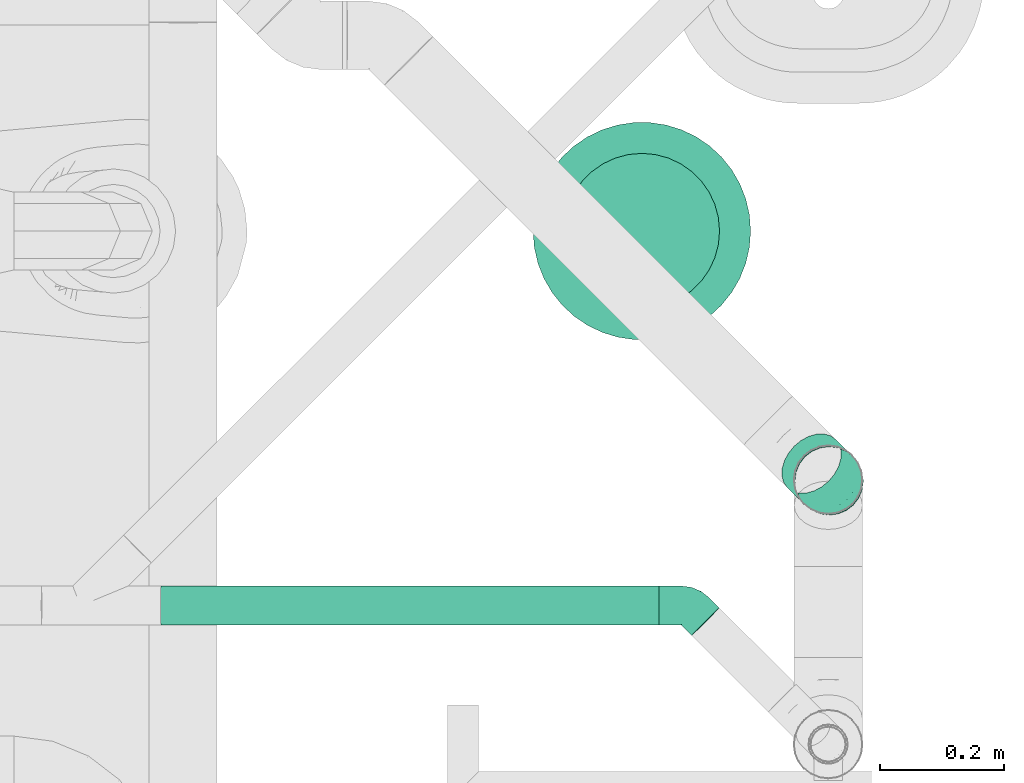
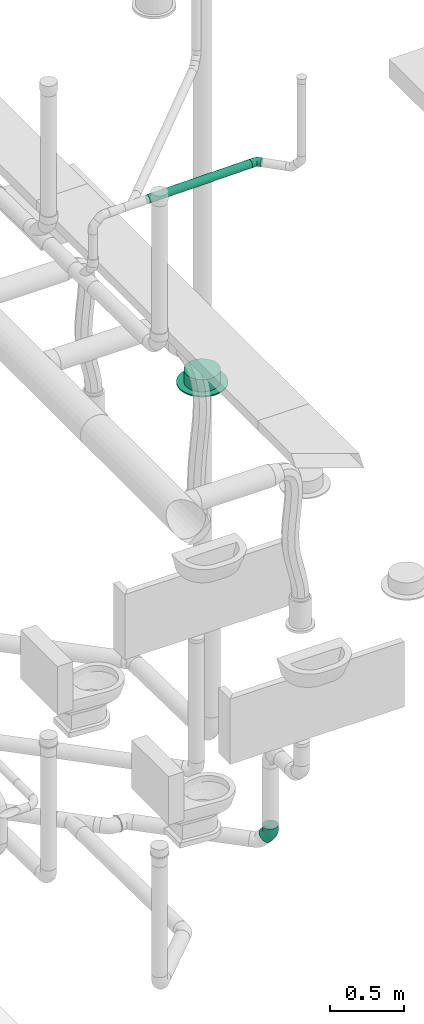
# One storey, part 133 of 374: 2 flow fittings, 1 distribution element, 1 flow segment.
"""IFC2X3 building model written with IfcOpenShell, lengths in metres."""

from ifc_helpers import new_model, si_unit, direction, frame, frame_2d, origin, place, context, subcontext, project, spatial, circle, extrude, open_shell, surface_model, source, transform, mapped, element, save


model = new_model("IFC2X3")

# Units and contexts
model_context = context("Model", 3, precision=1e-05, world=origin(), true_north=direction((-0.4480736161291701, 0.8939966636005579)))
body_context = subcontext(model_context, "Body", "Model", "MODEL_VIEW")
ifc_project = project(units=[si_unit("LENGTHUNIT", "METRE"), si_unit("AREAUNIT", "SQUARE_METRE"), si_unit("VOLUMEUNIT", "CUBIC_METRE"), si_unit("PLANEANGLEUNIT", "RADIAN"), si_unit("THERMODYNAMICTEMPERATUREUNIT", "KELVIN"), si_unit("MASSUNIT", "GRAM", prefix="KILO"), si_unit("TIMEUNIT", "SECOND")], contexts=[model_context])

# Site, building, storey
site_placement = place(None, origin())
site = spatial("IfcSite", under=ifc_project, at=site_placement, Name="Site 1", CompositionType="ELEMENT")
building_placement = place(site_placement, origin())
building = spatial("IfcBuilding", under=site, at=building_placement, Name="Undefined", CompositionType="ELEMENT")
storey_placement = place(building_placement, origin())
storey = spatial("IfcBuildingStorey", under=building, at=storey_placement, Name="Rez de chauss\x8ee", CompositionType="ELEMENT", Elevation=0.0)

# Flow fittings
shared_shape_1 = source(origin(), body_context, "Body", "SurfaceModel", [
    surface_model("IfcFaceBasedSurfaceModel", [(0.0, 0.014357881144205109, -3.552713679e-15), (0.0, 0.0, 0.0), (0.03509999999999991, 1.776356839e-15, -1.776356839e-15), (0.03509999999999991, 0.014357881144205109, 0.0), (0.0, -0.01386864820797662, -0.0037160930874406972), (0.035100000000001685, -0.01386864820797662, -0.003716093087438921), (0.0, -0.026302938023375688, -0.010895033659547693), (0.03509999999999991, -0.026302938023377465, -0.010895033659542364), (0.0, -0.03645549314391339, -0.021047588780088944), (0.035100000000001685, -0.03645549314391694, -0.021047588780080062), (0.0, -0.04363443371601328, -0.033481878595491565), (0.035100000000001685, -0.043634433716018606, -0.03348187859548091), (0.0, -0.04735052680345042, -0.04735052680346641), (0.03510000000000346, -0.04735052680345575, -0.04735052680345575), (0.0, -0.04735052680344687, -0.06170840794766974), (0.035100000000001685, -0.047350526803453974, -0.061708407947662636), (0.0, -0.04363443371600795, -0.07557705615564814), (0.035100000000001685, -0.04363443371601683, -0.07557705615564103), (0.0, -0.03645549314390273, -0.08801134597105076), (0.035100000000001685, -0.03645549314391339, -0.08801134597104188), (0.0, -0.026302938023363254, -0.0981639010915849), (0.03510000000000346, -0.026302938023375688, -0.09816390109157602), (0.0, -0.013868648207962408, -0.1053428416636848), (0.03510000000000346, -0.013868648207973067, -0.10534284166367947), (0.0, 1.5987211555e-14, -0.10905893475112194), (0.03510000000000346, 5.329070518e-15, -0.10905893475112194), (0.0, 0.014357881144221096, -0.10905893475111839), (0.035100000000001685, 0.014357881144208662, -0.10905893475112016), (0.0, 0.028226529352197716, -0.10534284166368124), (0.03510000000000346, 0.02822652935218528, -0.10534284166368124), (0.0, 0.040660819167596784, -0.0981639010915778), (0.03510000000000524, 0.040660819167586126, -0.09816390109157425), (0.0, 0.05081337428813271, -0.08801134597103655), (0.035100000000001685, 0.050813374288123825, -0.08801134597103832), (0.0, 0.05799231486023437, -0.07557705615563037), (0.035100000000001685, 0.05799231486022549, -0.07557705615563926), (0.0, 0.06170840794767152, -0.06170840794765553), (0.035100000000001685, 0.06170840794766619, -0.06170840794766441), (0.0, 0.061708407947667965, -0.0473505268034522), (0.035100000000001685, 0.061708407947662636, -0.0473505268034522), (0.0, 0.05799231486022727, -0.033481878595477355), (0.03510000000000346, 0.057992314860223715, -0.033481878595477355), (0.0, 0.050813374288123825, -0.021047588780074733), (0.035100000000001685, 0.05081337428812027, -0.021047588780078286), (0.0, 0.04066081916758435, -0.010895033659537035), (0.035100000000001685, 0.040660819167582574, -0.010895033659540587), (0.0, 0.028226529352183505, -0.0037160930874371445), (0.035100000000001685, 0.028226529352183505, -0.003716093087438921), (0.06308504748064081, -0.04369774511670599, -0.06218930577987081), (0.06357009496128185, -0.04363443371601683, -0.04783975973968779), (0.08916296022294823, -0.03298833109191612, -0.0635992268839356), (0.09010000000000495, -0.032739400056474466, -0.04927411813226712), (0.11155657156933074, -0.015952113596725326, -0.06584208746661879), (0.11288174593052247, -0.015407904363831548, -0.051555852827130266), (0.061662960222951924, -0.040167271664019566, -0.07603351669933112), (0.08641569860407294, -0.030002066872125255, -0.07737179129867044), (0.10767135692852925, -0.013831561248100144, -0.07950067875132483), (0.05940074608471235, -0.03328360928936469, -0.08842893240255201), (0.08204543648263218, -0.023984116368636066, -0.0896532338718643), (0.10149087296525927, -0.009190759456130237, -0.09160081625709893), (0.05645257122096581, -0.02351586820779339, -0.09853082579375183), (0.07635000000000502, -0.015344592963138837, -0.09960659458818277), (0.09343630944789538, -0.0023459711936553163, -0.10131789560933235), (0.053019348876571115, -0.011529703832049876, -0.1056507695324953), (0.06971752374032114, -0.004672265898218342, -0.10655356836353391), (0.08405657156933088, 0.006236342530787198, -0.10798971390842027), (0.049335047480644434, 0.0018580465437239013, -0.10930355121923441), (0.06260000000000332, 0.007305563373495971, -0.1100207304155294), (0.07399087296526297, 0.015971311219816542, -0.11116159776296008), (0.0456507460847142, 0.015735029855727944, -0.1092402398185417), (0.05548247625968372, 0.01977262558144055, -0.10977179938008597), (0.0639251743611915, 0.0261955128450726, -0.11061738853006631), (0.042217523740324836, 0.029155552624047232, -0.10546514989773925), (0.04885000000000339, 0.03187931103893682, -0.10582373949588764), (0.05454543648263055, 0.03621218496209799, -0.10639417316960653), (0.03926934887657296, 0.04120502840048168, -0.09823554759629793), (0.043154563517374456, 0.04280056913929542, -0.09844560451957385), (0.046490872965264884, 0.045338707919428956, -0.09877975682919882), (0.03700713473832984, 0.05106230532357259, -0.08804411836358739), (0.03878430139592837, 0.05179213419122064, -0.08814020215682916), (0.04031038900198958, 0.052953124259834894, -0.08829304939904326), (0.03558504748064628, 0.058055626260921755, -0.07558539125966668), (0.03603703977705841, 0.0582412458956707, -0.07560982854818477), (0.03642517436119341, 0.05853652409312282, -0.07564870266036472), (0.035585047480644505, 0.0617717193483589, -0.047358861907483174), (0.036037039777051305, 0.0619573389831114, -0.04738329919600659), (0.03642517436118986, 0.06225261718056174, -0.04742217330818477), (0.037007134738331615, 0.05824124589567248, -0.03351465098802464), (0.03878430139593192, 0.05897107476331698, -0.03361073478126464), (0.04031038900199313, 0.06013206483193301, -0.03376358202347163), (0.039269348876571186, 0.05135758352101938, -0.02111923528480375), (0.04315456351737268, 0.05295312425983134, -0.021329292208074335), (0.046490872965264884, 0.05549126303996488, -0.021663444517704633), (0.04221752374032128, 0.041589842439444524, -0.01101734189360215), (0.04884999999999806, 0.044313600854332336, -0.011375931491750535), (0.054545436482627, 0.04864647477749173, -0.01194636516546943), (0.04565074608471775, 0.029603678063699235, -0.003897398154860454), (0.05548247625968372, 0.03364127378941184, -0.004428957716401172), (0.0639251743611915, 0.040064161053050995, -0.005274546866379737), (0.04933504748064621, 0.016215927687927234, -0.0002446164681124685), (0.06260000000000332, 0.021663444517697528, -0.000961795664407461), (0.07399087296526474, 0.030329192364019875, -0.002102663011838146), (0.05301934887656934, 0.0023389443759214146, -0.0003079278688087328), (0.06971752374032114, 0.009196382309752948, -0.0012107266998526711), (0.08405657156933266, 0.020104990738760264, -0.0026468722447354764), (0.05645257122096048, -0.011081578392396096, -0.004083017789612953), (0.0763499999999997, -0.002910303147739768, -0.0051587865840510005), (0.09343630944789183, 0.010088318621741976, -0.006870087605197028), (0.059400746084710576, -0.023131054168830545, -0.011312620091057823), (0.08204543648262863, -0.01383156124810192, -0.012536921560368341), (0.1014908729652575, 0.0009617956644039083, -0.01448450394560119), (0.0616629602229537, -0.032988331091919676, -0.021504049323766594), (0.0864156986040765, -0.022823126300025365, -0.022842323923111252), (0.10767135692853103, -0.006652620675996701, -0.024971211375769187), (0.06308504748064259, -0.03998165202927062, -0.033962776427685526), (0.08916296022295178, -0.02927223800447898, -0.035372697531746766), (0.1115565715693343, -0.012236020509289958, -0.03761555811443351), (0.1363760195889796, 0.008655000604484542, -0.06908167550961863), (0.13770119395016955, 0.00919920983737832, -0.05479544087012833), (0.13249080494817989, 0.0107755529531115, -0.08274026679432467), (0.12631032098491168, 0.01541635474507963, -0.09484040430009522), (0.11825575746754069, 0.02226114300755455, -0.10455748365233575), (0.1088760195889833, 0.03084345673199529, -0.11122930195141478), (0.09881032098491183, 0.04057842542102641, -0.11440118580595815), (0.08874462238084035, 0.05080262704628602, -0.11385697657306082), (0.07936488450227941, 0.06081929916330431, -0.10963376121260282), (0.07131032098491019, 0.0699458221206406, -0.10201934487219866), (0.06512983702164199, 0.07756023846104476, -0.09153263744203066), (0.06124462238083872, 0.08314363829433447, -0.07888829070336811), (0.059919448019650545, 0.08631552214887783, -0.0649479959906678), (0.06124462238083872, 0.08685973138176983, -0.05066176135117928), (0.06512983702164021, 0.08473917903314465, -0.03700317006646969), (0.07131032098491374, 0.08009837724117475, -0.024903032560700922), (0.07936488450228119, 0.07325358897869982, -0.015185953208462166), (0.0887446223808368, 0.06467127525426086, -0.008514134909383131), (0.09881032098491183, 0.05493630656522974, -0.005342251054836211), (0.10887601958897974, 0.04471210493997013, -0.0058864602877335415), (0.11825575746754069, 0.03469543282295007, -0.010109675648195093), (0.1263103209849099, 0.02556890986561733, -0.017724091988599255), (0.13249080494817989, 0.017954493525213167, -0.0282107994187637), (0.13637601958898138, 0.012371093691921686, -0.04085514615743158)], [open_shell([[[0, 1, 2, 3]], [[1, 4, 5, 2]], [[4, 6, 7, 5]], [[6, 8, 9, 7]], [[8, 10, 11, 9]], [[10, 12, 13, 11]], [[12, 14, 15, 13]], [[14, 16, 17, 15]], [[16, 18, 19, 17]], [[18, 20, 21, 19]], [[20, 22, 23, 21]], [[22, 24, 25, 23]], [[24, 26, 27, 25]], [[26, 28, 29, 27]], [[28, 30, 31, 29]], [[30, 32, 33, 31]], [[32, 34, 35, 33]], [[34, 36, 37, 35]], [[36, 38, 39, 37]], [[38, 40, 41, 39]], [[40, 42, 43, 41]], [[42, 44, 45, 43]], [[44, 46, 47, 45]], [[46, 0, 3, 47]], [[13, 15, 48, 49]], [[49, 48, 50, 51]], [[51, 50, 52, 53]], [[15, 17, 54, 48]], [[48, 54, 55, 50]], [[50, 55, 56, 52]], [[17, 19, 57, 54]], [[54, 57, 58, 55]], [[55, 58, 59, 56]], [[19, 21, 60, 57]], [[57, 60, 61, 58]], [[58, 61, 62, 59]], [[21, 23, 63, 60]], [[60, 63, 64, 61]], [[61, 64, 65, 62]], [[23, 25, 66, 63]], [[63, 66, 67, 64]], [[64, 67, 68, 65]], [[25, 27, 69, 66]], [[66, 69, 70, 67]], [[67, 70, 71, 68]], [[27, 29, 72, 69]], [[69, 72, 73, 70]], [[70, 73, 74, 71]], [[29, 31, 75, 72]], [[72, 75, 76, 73]], [[73, 76, 77, 74]], [[31, 33, 78, 75]], [[75, 78, 79, 76]], [[76, 79, 80, 77]], [[33, 35, 81, 78]], [[78, 81, 82, 79]], [[79, 82, 83, 80]], [[35, 37, 81]], [[81, 37, 82]], [[82, 37, 83]], [[37, 39, 84]], [[37, 84, 85]], [[37, 85, 86]], [[39, 41, 87, 84]], [[84, 87, 88, 85]], [[85, 88, 89, 86]], [[41, 43, 90, 87]], [[87, 90, 91, 88]], [[88, 91, 92, 89]], [[43, 45, 93, 90]], [[90, 93, 94, 91]], [[91, 94, 95, 92]], [[45, 47, 96, 93]], [[93, 96, 97, 94]], [[94, 97, 98, 95]], [[47, 3, 99, 96]], [[96, 99, 100, 97]], [[97, 100, 101, 98]], [[3, 2, 102, 99]], [[99, 102, 103, 100]], [[100, 103, 104, 101]], [[2, 5, 105, 102]], [[102, 105, 106, 103]], [[103, 106, 107, 104]], [[5, 7, 108, 105]], [[105, 108, 109, 106]], [[106, 109, 110, 107]], [[7, 9, 111, 108]], [[108, 111, 112, 109]], [[109, 112, 113, 110]], [[9, 11, 114, 111]], [[111, 114, 115, 112]], [[112, 115, 116, 113]], [[11, 13, 49, 114]], [[114, 49, 51, 115]], [[115, 51, 53, 116]], [[53, 52, 117, 118]], [[52, 56, 119, 117]], [[56, 59, 120, 119]], [[59, 62, 121, 120]], [[62, 65, 122, 121]], [[65, 68, 123, 122]], [[68, 71, 124, 123]], [[71, 74, 125, 124]], [[74, 77, 126, 125]], [[77, 80, 127, 126]], [[80, 83, 128, 127]], [[83, 37, 129, 128]], [[37, 86, 130, 129]], [[86, 89, 131, 130]], [[89, 92, 132, 131]], [[92, 95, 133, 132]], [[95, 98, 134, 133]], [[98, 101, 135, 134]], [[101, 104, 136, 135]], [[104, 107, 137, 136]], [[107, 110, 138, 137]], [[110, 113, 139, 138]], [[113, 116, 140, 139]], [[116, 53, 118, 140]]])]),
])
flow_fitting_1_placement = place(storey_placement, origin())
element("IfcFlowFitting", 1, at=flow_fitting_1_placement, inside=storey, Name="PE-HD coude 45°", ObjectType="PE-HD coude 45°", context=body_context, shape_type="MappedRepresentation", body=[
    mapped(shared_shape_1, transform((58.51759450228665, 12.393621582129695, -1.134280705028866), x_axis=(0.49559793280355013, -0.489386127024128, 0.717554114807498), y_axis=(-0.5922789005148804, 0.4138503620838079, 0.6913274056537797), z_axis=(-0.6352860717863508, -0.7676125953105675, -0.0847496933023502))),
])
shared_shape_2 = source(origin(), body_context, "Body", "SurfaceModel", [
    surface_model("IfcFaceBasedSurfaceModel", [(0.0, 0.008223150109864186, -7.105427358e-15), (0.0, 0.0, 0.0), (0.035200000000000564, -4.4408921e-16, -8.8817842e-16), (0.03520000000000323, 0.008223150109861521, 0.0), (0.0, -0.007942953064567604, -0.002128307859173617), (0.03520000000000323, -0.00794295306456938, -0.002128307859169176), (-7.105427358e-15, -0.015064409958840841, -0.006239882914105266), (0.03520000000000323, -0.015064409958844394, -0.006239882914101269), (0.0, -0.020879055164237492, -0.012054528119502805), (0.03520000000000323, -0.02087905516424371, -0.01205452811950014), (0.0, -0.024990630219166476, -0.01917598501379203), (0.03519999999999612, -0.024990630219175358, -0.019175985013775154), (-7.105427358e-15, -0.027118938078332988, -0.027118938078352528), (0.035200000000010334, -0.027118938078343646, -0.027118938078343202), (-1.4210854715e-14, -0.02711893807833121, -0.035342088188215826), (0.03520000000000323, -0.02711893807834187, -0.035342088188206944), (-7.105427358e-15, -0.024990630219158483, -0.04328504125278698), (0.03519999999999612, -0.024990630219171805, -0.043285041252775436), (-7.105427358e-15, -0.02087905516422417, -0.050406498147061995), (0.03520000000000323, -0.020879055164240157, -0.050406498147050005), (-7.105427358e-15, -0.015064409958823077, -0.05622114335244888), (0.03520000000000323, -0.015064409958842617, -0.05622114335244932), (-1.4210854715e-14, -0.007942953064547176, -0.06033271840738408), (0.035200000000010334, -0.007942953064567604, -0.060332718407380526), (0.0, 2.2204460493e-14, -0.06246102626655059), (0.03520000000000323, 0.0, -0.062461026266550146), (0.0, 0.00822315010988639, -0.06246102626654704), (0.03520000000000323, 0.008223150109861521, -0.062461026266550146), (-7.105427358e-15, 0.016166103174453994, -0.06033271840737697), (0.03520000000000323, 0.0161661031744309, -0.06033271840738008), (-7.105427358e-15, 0.02328756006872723, -0.056221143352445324), (0.03519999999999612, 0.023287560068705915, -0.05622114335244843), (0.0, 0.029102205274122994, -0.05040649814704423), (0.03520000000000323, 0.02910220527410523, -0.05040649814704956), (-7.105427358e-15, 0.03321378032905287, -0.043285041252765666), (0.03520000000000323, 0.03321378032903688, -0.04328504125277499), (-7.105427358e-15, 0.03534208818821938, -0.03534208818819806), (0.03520000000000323, 0.035342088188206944, -0.0353420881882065), (-7.105427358e-15, 0.0353420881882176, -0.027118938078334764), (0.03520000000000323, 0.035342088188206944, -0.027118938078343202), (-7.105427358e-15, 0.03321378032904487, -0.019175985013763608), (0.035200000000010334, 0.033213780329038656, -0.019175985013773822), (-7.105427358e-15, 0.02910220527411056, -0.012054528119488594), (0.035200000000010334, 0.02910220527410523, -0.01205452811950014), (-7.105427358e-15, 0.023287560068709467, -0.00623988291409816), (0.03520000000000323, 0.02328756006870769, -0.006239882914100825), (-7.105427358e-15, 0.016166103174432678, -0.0021283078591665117), (0.03520000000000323, 0.0161661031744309, -0.002128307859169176), (0.05135533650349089, -0.025010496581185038, -0.03561966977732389), (0.05163310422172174, -0.024974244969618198, -0.02740129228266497), (0.06640997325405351, -0.018828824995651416, -0.03643350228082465), (0.06694658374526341, -0.018686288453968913, -0.02822911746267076), (0.07933820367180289, -0.008995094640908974, -0.03772813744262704), (0.0800970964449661, -0.008683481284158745, -0.02954601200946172), (0.0505409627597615, -0.022988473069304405, -0.043548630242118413), (0.06483671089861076, -0.017118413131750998, -0.04432143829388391), (0.07711324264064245, -0.0077803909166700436, -0.04555081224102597), (0.049245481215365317, -0.01904597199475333, -0.05064782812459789), (0.062334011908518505, -0.013671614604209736, -0.05135537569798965), (0.07357384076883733, -0.00512215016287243, -0.05248093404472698), (0.04755717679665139, -0.013451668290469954, -0.056433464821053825), (0.05907243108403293, -0.008723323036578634, -0.05705596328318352), (0.06896120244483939, -0.0012015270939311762, -0.058046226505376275), (0.04559110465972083, -0.0065868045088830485, -0.06051125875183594), (0.05527423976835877, -0.002610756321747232, -0.06103471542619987), (0.06358967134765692, 0.0037142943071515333, -0.061867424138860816), (0.04348124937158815, 0.001080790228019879, -0.0626033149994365), (0.051198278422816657, 0.004249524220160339, -0.06302048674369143), (0.057825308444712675, 0.009290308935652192, -0.06368411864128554), (0.041371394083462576, 0.009028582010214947, -0.06256706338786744), (0.047122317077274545, 0.011390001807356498, -0.06287795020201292), (0.05206094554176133, 0.015146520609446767, -0.06337250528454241), (0.039405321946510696, 0.016714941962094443, -0.06040497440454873), (0.043324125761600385, 0.018324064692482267, -0.06061681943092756), (0.04668941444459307, 0.020883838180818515, -0.06095382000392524), (0.037717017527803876, 0.023616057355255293, -0.05626439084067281), (0.04006254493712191, 0.024579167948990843, -0.05639118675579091), (0.04207677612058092, 0.026111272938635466, -0.05659289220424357), (0.03642153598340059, 0.02926162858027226, -0.05042748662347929), (0.03755984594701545, 0.029729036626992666, -0.050489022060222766), (0.038537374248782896, 0.030472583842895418, -0.05058691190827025), (0.03560716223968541, 0.033266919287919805, -0.04329203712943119), (0.03598658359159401, 0.03342271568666, -0.04331254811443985), (0.03631241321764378, 0.033670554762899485, -0.04334517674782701), (0.035329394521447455, 0.03535897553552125, -0.035344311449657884), (0.03544997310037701, 0.03540848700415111, -0.03535082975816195), (0.03555352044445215, 0.0354872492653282, -0.03536119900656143), (0.03560716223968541, 0.03539522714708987, -0.027125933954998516), (0.03598658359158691, 0.035551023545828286, -0.027146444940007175), (0.03631241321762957, 0.035798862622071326, -0.02717907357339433), (0.036421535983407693, 0.03337320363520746, -0.019196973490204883), (0.03755984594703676, 0.0338406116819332, -0.019258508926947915), (0.038537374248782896, 0.0345841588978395, -0.01935639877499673), (0.03771701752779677, 0.02943070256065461, -0.012097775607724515), (0.0400625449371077, 0.03039381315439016, -0.012224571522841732), (0.04207677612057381, 0.03192591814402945, -0.012426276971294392), (0.0394053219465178, 0.02383639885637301, -0.0063121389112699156), (0.043324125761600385, 0.02544552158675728, -0.006523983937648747), (0.04668941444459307, 0.028005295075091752, -0.0068609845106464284), (0.04137139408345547, 0.016971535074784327, -0.002234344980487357), (0.04712231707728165, 0.019332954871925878, -0.0025452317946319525), (0.05206094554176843, 0.023089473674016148, -0.0030397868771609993), (0.04348124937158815, 0.009303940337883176, -0.00014228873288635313), (0.05119827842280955, 0.012472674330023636, -0.0005594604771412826), (0.05782530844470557, 0.01751345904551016, -0.0012230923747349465), (0.045591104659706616, 0.001356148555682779, -0.00017854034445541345), (0.05527423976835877, 0.005332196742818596, -0.0007019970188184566), (0.06358967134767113, 0.011657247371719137, -0.0015347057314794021), (0.047557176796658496, -0.006330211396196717, -0.00234062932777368), (0.05907243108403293, -0.0016018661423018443, -0.002963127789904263), (0.06896120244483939, 0.0059199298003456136, -0.003953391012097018), (0.04924548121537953, -0.013231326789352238, -0.0064812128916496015), (0.062334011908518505, -0.007856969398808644, -0.007188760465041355), (0.07357384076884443, 0.0006924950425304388, -0.008314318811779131), (0.05054096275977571, -0.01887689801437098, -0.012318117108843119), (0.06483671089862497, -0.01300683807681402, -0.013090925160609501), (0.07711324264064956, -0.003668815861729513, -0.01432029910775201), (0.05135533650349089, -0.022882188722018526, -0.01945356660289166), (0.06640997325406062, -0.016700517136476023, -0.020267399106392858), (0.07933820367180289, -0.006866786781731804, -0.02156203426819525), (0.09588604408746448, 0.007408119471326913, -0.039887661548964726), (0.0966449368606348, 0.0077197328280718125, -0.031705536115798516), (0.09366108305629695, 0.00862282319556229, -0.047710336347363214), (0.09012168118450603, 0.01128106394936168, -0.05464045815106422), (0.0855090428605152, 0.01520168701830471, -0.06020575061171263), (0.08013751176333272, 0.020117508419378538, -0.06402694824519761), (0.07437314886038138, 0.02569352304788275, -0.06584364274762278), (0.06860878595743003, 0.0315497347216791, -0.06553202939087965), (0.06323725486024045, 0.03728705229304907, -0.06311334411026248), (0.05862461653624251, 0.0425144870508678, -0.05875241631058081), (0.0550852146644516, 0.04687579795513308, -0.05274643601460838), (0.052860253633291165, 0.05007376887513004, -0.045504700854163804), (0.05210136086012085, 0.05189046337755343, -0.03752072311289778), (0.05286025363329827, 0.05220207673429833, -0.029338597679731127), (0.055085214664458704, 0.05098737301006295, -0.02151592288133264), (0.05862461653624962, 0.04832913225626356, -0.014585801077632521), (0.06323725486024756, 0.04440850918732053, -0.009020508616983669), (0.06860878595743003, 0.039492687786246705, -0.005199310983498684), (0.07437314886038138, 0.033916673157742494, -0.0033826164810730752), (0.08013751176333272, 0.028060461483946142, -0.003694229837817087), (0.08550904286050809, 0.022323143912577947, -0.006112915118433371), (0.09012168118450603, 0.01709570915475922, -0.010473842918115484), (0.09366108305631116, 0.012734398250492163, -0.01647982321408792), (0.09588604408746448, 0.009536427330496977, -0.023721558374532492)], [open_shell([[[0, 1, 2, 3]], [[1, 4, 5, 2]], [[4, 6, 7, 5]], [[6, 8, 9, 7]], [[8, 10, 11, 9]], [[10, 12, 13, 11]], [[12, 14, 15, 13]], [[14, 16, 17, 15]], [[16, 18, 19, 17]], [[18, 20, 21, 19]], [[20, 22, 23, 21]], [[22, 24, 25, 23]], [[24, 26, 27, 25]], [[26, 28, 29, 27]], [[28, 30, 31, 29]], [[30, 32, 33, 31]], [[32, 34, 35, 33]], [[34, 36, 37, 35]], [[36, 38, 39, 37]], [[38, 40, 41, 39]], [[40, 42, 43, 41]], [[42, 44, 45, 43]], [[44, 46, 47, 45]], [[46, 0, 3, 47]], [[13, 15, 48, 49]], [[49, 48, 50, 51]], [[51, 50, 52, 53]], [[15, 17, 54, 48]], [[48, 54, 55, 50]], [[50, 55, 56, 52]], [[17, 19, 57, 54]], [[54, 57, 58, 55]], [[55, 58, 59, 56]], [[19, 21, 60, 57]], [[57, 60, 61, 58]], [[58, 61, 62, 59]], [[21, 23, 63, 60]], [[60, 63, 64, 61]], [[61, 64, 65, 62]], [[23, 25, 66, 63]], [[63, 66, 67, 64]], [[64, 67, 68, 65]], [[25, 27, 69, 66]], [[66, 69, 70, 67]], [[67, 70, 71, 68]], [[27, 29, 72, 69]], [[69, 72, 73, 70]], [[70, 73, 74, 71]], [[29, 31, 75, 72]], [[72, 75, 76, 73]], [[73, 76, 77, 74]], [[31, 33, 78, 75]], [[75, 78, 79, 76]], [[76, 79, 80, 77]], [[33, 35, 81, 78]], [[78, 81, 82, 79]], [[79, 82, 83, 80]], [[35, 37, 84, 81]], [[81, 84, 85, 82]], [[82, 85, 86, 83]], [[37, 39, 87, 84]], [[84, 87, 88, 85]], [[85, 88, 89, 86]], [[39, 41, 90, 87]], [[87, 90, 91, 88]], [[88, 91, 92, 89]], [[41, 43, 93, 90]], [[90, 93, 94, 91]], [[91, 94, 95, 92]], [[43, 45, 96, 93]], [[93, 96, 97, 94]], [[94, 97, 98, 95]], [[45, 47, 99, 96]], [[96, 99, 100, 97]], [[97, 100, 101, 98]], [[47, 3, 102, 99]], [[99, 102, 103, 100]], [[100, 103, 104, 101]], [[3, 2, 105, 102]], [[102, 105, 106, 103]], [[103, 106, 107, 104]], [[2, 5, 108, 105]], [[105, 108, 109, 106]], [[106, 109, 110, 107]], [[5, 7, 111, 108]], [[108, 111, 112, 109]], [[109, 112, 113, 110]], [[7, 9, 114, 111]], [[111, 114, 115, 112]], [[112, 115, 116, 113]], [[9, 11, 117, 114]], [[114, 117, 118, 115]], [[115, 118, 119, 116]], [[11, 13, 49, 117]], [[117, 49, 51, 118]], [[118, 51, 53, 119]], [[53, 52, 120, 121]], [[52, 56, 122, 120]], [[56, 59, 123, 122]], [[59, 62, 124, 123]], [[62, 65, 125, 124]], [[65, 68, 126, 125]], [[68, 71, 127, 126]], [[71, 74, 128, 127]], [[74, 77, 129, 128]], [[77, 80, 130, 129]], [[80, 83, 131, 130]], [[83, 86, 132, 131]], [[86, 89, 133, 132]], [[89, 92, 134, 133]], [[92, 95, 135, 134]], [[95, 98, 136, 135]], [[98, 101, 137, 136]], [[101, 104, 138, 137]], [[104, 107, 139, 138]], [[107, 110, 140, 139]], [[110, 113, 141, 140]], [[113, 116, 142, 141]], [[116, 119, 143, 142]], [[119, 53, 121, 143]]])]),
])
flow_fitting_2_placement = place(storey_placement, origin())
element("IfcFlowFitting", 2, at=flow_fitting_2_placement, inside=storey, Name="PE-HD coude 45°", ObjectType="PE-HD coude 45°", context=body_context, shape_type="MappedRepresentation", body=[
    mapped(shared_shape_2, transform((58.30354491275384, 12.217963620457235, 4.623043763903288), x_axis=(0.9998875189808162, 0.0, 0.014998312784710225), y_axis=(0.001865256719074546, -0.992236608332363, -0.1243504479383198), z_axis=(0.014881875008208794, 0.12436443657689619, -0.9921250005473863))),
])

# Flow segment
shared_shape_3 = source(origin(), body_context, "Body", "SurfaceModel", [
    surface_model("IfcFaceBasedSurfaceModel", [(0.0, 0.008223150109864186, -7.105427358e-15), (0.0, 0.0, 0.0), (0.8019027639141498, 0.0, 0.0), (0.8019027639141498, 0.008223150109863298, 0.0), (0.0, -0.007942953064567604, -0.002128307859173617), (0.8019027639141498, -0.00794295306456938, -0.002128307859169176), (-7.105427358e-15, -0.015064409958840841, -0.006239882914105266), (0.8019027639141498, -0.015064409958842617, -0.006239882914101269), (0.0, -0.020879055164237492, -0.012054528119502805), (0.8019027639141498, -0.020879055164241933, -0.01205452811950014), (0.0, -0.024990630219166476, -0.01917598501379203), (0.8019027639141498, -0.024990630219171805, -0.019175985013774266), (-7.105427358e-15, -0.027118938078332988, -0.027118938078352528), (0.8019027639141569, -0.027118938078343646, -0.027118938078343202), (-1.4210854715e-14, -0.02711893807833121, -0.035342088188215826), (0.8019027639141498, -0.027118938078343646, -0.03534208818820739), (-7.105427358e-15, -0.024990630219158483, -0.04328504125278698), (0.8019027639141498, -0.024990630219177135, -0.043285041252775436), (-7.105427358e-15, -0.02087905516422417, -0.050406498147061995), (0.8019027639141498, -0.02087905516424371, -0.05040649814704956), (-7.105427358e-15, -0.015064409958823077, -0.05622114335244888), (0.8019027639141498, -0.015064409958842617, -0.05622114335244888), (-1.4210854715e-14, -0.007942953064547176, -0.06033271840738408), (0.8019027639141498, -0.00794295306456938, -0.06033271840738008), (0.0, 2.2204460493e-14, -0.06246102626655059), (0.8019027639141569, 0.0, -0.0624610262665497), (0.0, 0.00822315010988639, -0.06246102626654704), (0.8019027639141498, 0.008223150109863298, -0.06246102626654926), (-7.105427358e-15, 0.016166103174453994, -0.06033271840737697), (0.8019027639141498, 0.016166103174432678, -0.06033271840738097), (-7.105427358e-15, 0.02328756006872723, -0.056221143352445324), (0.8019027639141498, 0.023287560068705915, -0.05622114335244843), (0.0, 0.029102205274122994, -0.05040649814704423), (0.8019027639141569, 0.02910220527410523, -0.05040649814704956), (-7.105427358e-15, 0.03321378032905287, -0.043285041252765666), (0.8019027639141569, 0.03321378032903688, -0.04328504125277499), (-7.105427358e-15, 0.03534208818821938, -0.03534208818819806), (0.8019027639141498, 0.03534208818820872, -0.035342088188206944), (-7.105427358e-15, 0.0353420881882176, -0.027118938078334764), (0.8019027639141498, 0.03534208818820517, -0.027118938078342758), (-7.105427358e-15, 0.03321378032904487, -0.019175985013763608), (0.8019027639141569, 0.03321378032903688, -0.019175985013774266), (-7.105427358e-15, 0.02910220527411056, -0.012054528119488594), (0.8019027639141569, 0.02910220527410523, -0.012054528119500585), (-7.105427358e-15, 0.023287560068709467, -0.00623988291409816), (0.8019027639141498, 0.023287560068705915, -0.006239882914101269), (-7.105427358e-15, 0.016166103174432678, -0.0021283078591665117), (0.8019027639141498, 0.0161661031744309, -0.002128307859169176)], [open_shell([[[0, 1, 2, 3]], [[1, 4, 5, 2]], [[4, 6, 7, 5]], [[6, 8, 9, 7]], [[8, 10, 11, 9]], [[10, 12, 13, 11]], [[12, 14, 15, 13]], [[14, 16, 17, 15]], [[16, 18, 19, 17]], [[18, 20, 21, 19]], [[20, 22, 23, 21]], [[22, 24, 25, 23]], [[24, 26, 27, 25]], [[26, 28, 29, 27]], [[28, 30, 31, 29]], [[30, 32, 33, 31]], [[32, 34, 35, 33]], [[34, 36, 37, 35]], [[36, 38, 39, 37]], [[38, 40, 41, 39]], [[40, 42, 43, 41]], [[42, 44, 45, 43]], [[44, 46, 47, 45]], [[46, 0, 3, 47]]])]),
])
flow_segment_placement = place(storey_placement, origin())
element("IfcFlowSegment", 3, at=flow_segment_placement, inside=storey, Name="PE-HD tuyau", ObjectType="PE-HD tuyau", context=body_context, shape_type="MappedRepresentation", body=[
    mapped(shared_shape_3, transform((57.50173082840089, 12.21834166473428, 4.61111786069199), x_axis=(0.9998875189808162, 0.0, 0.014998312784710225), y_axis=(0.0020500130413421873, -0.9906148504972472, -0.1366675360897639), z_axis=(0.014857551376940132, 0.13668291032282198, -0.9905034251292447))),
])

# Distribution element
distribution_element_placement = place(storey_placement, origin())
element("IfcDistributionElement", 4, at=distribution_element_placement, inside=storey, Name="Einbau-Downlight, 1-flammig", ObjectType="Einbau-Downlight, 1-flammig", context=body_context, shape_type="SweptSolid", body=[
    extrude(circle(Radius=0.17500000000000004, at=frame_2d((3.552713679e-15, 0.0), x_axis=(1.0, 0.0))), frame((58.275081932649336, 12.812500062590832, 2.5), z_axis=(0.0, 0.0, -1.0), x_axis=(1.0, 0.0, 0.0)), (0.0, 0.0, 1.0), 0.01),
    extrude(circle(Radius=0.125, at=frame_2d((3.552713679e-15, 0.0), x_axis=(1.0, 0.0))), frame((58.275081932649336, 12.812500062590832, 2.6000000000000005), z_axis=(0.0, 0.0, -1.0), x_axis=(1.0, 0.0, 0.0)), (0.0, 0.0, 1.0), 0.10000000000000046),
])

save(model, "model.ifc")
